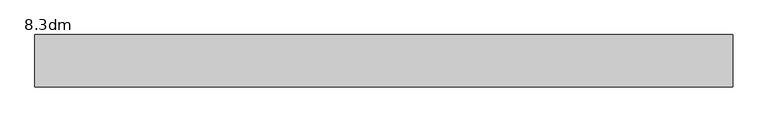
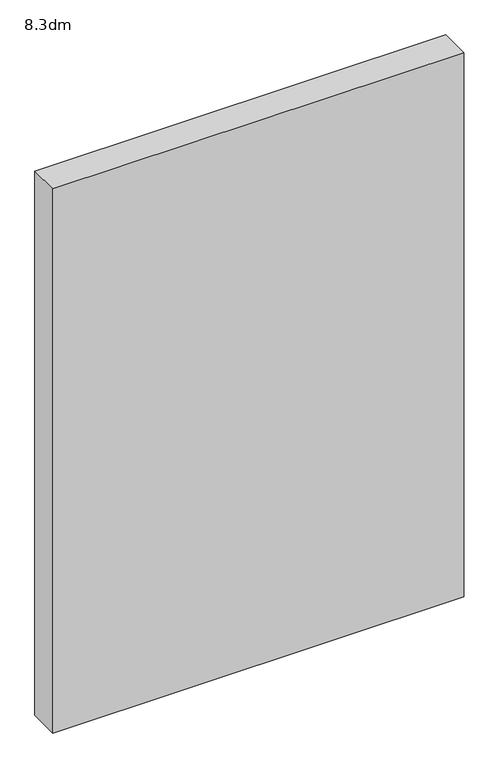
"""IFC4 building model written with IfcOpenShell, lengths in millimetres: proxy geometry, 8.3dm."""

import ifcopenshell
import ifcopenshell.guid

model = None  # the IFC model being written
_history = None  # IfcOwnerHistory: only IFC2X3 demands one
_inside = {}  # id of a spatial element -> (the spatial element, [elements in it])
_under = {}  # id of a project, library or spatial element -> (it, [spatial elements below it])
_declared = {}  # id of a project -> (the project, [libraries it declares])
_typed = {}  # id of a type object -> (the type object, [elements of that type])
_made_of = {}  # id of a material, layer set ... -> (it, [elements and type objects made of it])


def new_model(schema):
    """Start an empty IFC model of exactly this schema.

    Asked for "IFC4X3", IfcOpenShell would pick the latest addendum, in which some entities
    have other attributes; the version numbers below select the first issue.
    IFC2X3 requires an IfcOwnerHistory on every rooted entity: one is made here for all.
    """
    global model, _history
    if schema == "IFC4X3":
        model = ifcopenshell.file(schema_version=(4, 3, 0, 0))
    else:
        model = ifcopenshell.file(schema=schema)
    _inside.clear()
    _under.clear()
    _declared.clear()
    _typed.clear()
    _made_of.clear()
    _history = None
    if model.schema == "IFC2X3":
        org = make("IfcOrganization", Name="unknown")
        user = make(
            "IfcPersonAndOrganization",
            ThePerson=make("IfcPerson", FamilyName="unknown"),
            TheOrganization=org,
        )
        app = make(
            "IfcApplication",
            ApplicationDeveloper=org,
            Version="unknown",
            ApplicationFullName="unknown",
            ApplicationIdentifier="unknown",
        )
        _history = make(
            "IfcOwnerHistory",
            OwningUser=user,
            OwningApplication=app,
            ChangeAction="ADDED",
            CreationDate=0,
        )
    return model


def make(cls, **values):
    """One entity of the class cls with the attributes given. An attribute that is None is left unset."""
    return model.create_entity(
        cls, **{name: value for name, value in values.items() if value is not None}
    )


def rooted(cls, **values):
    """An entity with a GlobalId (a new one), such as an element, a storey or a relation."""
    return make(cls, GlobalId=ifcopenshell.guid.new(), OwnerHistory=_history, **values)


def si_unit(unit_type, name, prefix=None):
    """IfcSIUnit, for example si_unit("LENGTHUNIT", "METRE", prefix="MILLI")."""
    return make("IfcSIUnit", UnitType=unit_type, Prefix=prefix, Name=name)


def assignment(units):
    """IfcUnitAssignment: the units of a project."""
    return None if units is None else make("IfcUnitAssignment", Units=units)


def point(xyz):
    """IfcCartesianPoint."""
    return None if xyz is None else make("IfcCartesianPoint", Coordinates=xyz)


def direction(xyz):
    """IfcDirection."""
    return None if xyz is None else make("IfcDirection", DirectionRatios=xyz)


def frame(location, z_axis=None, x_axis=None):
    """IfcAxis2Placement3D, a coordinate frame: its origin and axes. An axis left out is left unset."""
    return make(
        "IfcAxis2Placement3D",
        Location=point(location),
        Axis=direction(z_axis),
        RefDirection=direction(x_axis),
    )


def origin():
    """The frame at (0, 0, 0) with its axes left unset."""
    return frame((0.0, 0.0, 0.0))


def origin_with_axes():
    """The frame at (0, 0, 0) with the z axis (0, 0, 1) and the x axis (1, 0, 0) written out."""
    return frame((0.0, 0.0, 0.0), z_axis=(0.0, 0.0, 1.0), x_axis=(1.0, 0.0, 0.0))


def place(relative_to, where):
    """IfcLocalPlacement: puts the frame where relative to a parent placement (None: the world)."""
    return make(
        "IfcLocalPlacement", PlacementRelTo=relative_to, RelativePlacement=where
    )


def context(
    kind, dimensions, precision=None, world=None, true_north=None, identifier=None
):
    """IfcGeometricRepresentationContext, for example the 3D "Model" context."""
    return make(
        "IfcGeometricRepresentationContext",
        ContextIdentifier=identifier,
        ContextType=kind,
        CoordinateSpaceDimension=dimensions,
        Precision=precision,
        WorldCoordinateSystem=world,
        TrueNorth=true_north,
    )


def project(units=None, contexts=None):
    """IfcProject with its units and contexts."""
    return rooted(
        "IfcProject",
        Name="project",
        RepresentationContexts=contexts,
        UnitsInContext=assignment(units),
    )


def spatial(cls, under=None, at=None, **own):
    """A site, building, storey or space (cls), placed at a placement, below another one or the project."""
    s = rooted(cls, ObjectPlacement=at, **own)
    if under is not None:
        _under.setdefault(under.id(), (under, []))[1].append(s)
    return s


def polyline(points):
    """IfcPolyline through the points."""
    return make("IfcPolyline", Points=[point(p) for p in points])


def outline(outer, holes=None, kind="AREA"):
    """IfcArbitraryClosedProfileDef: a profile drawn as a closed curve; with holes, ...WithVoids."""
    if holes is None:
        return make("IfcArbitraryClosedProfileDef", ProfileType=kind, OuterCurve=outer)
    return make(
        "IfcArbitraryProfileDefWithVoids",
        ProfileType=kind,
        OuterCurve=outer,
        InnerCurves=holes,
    )


def extrude(swept, where, along, depth):
    """IfcExtrudedAreaSolid: the profile swept, set in the frame where, extruded along a direction by depth."""
    return make(
        "IfcExtrudedAreaSolid",
        SweptArea=swept,
        Position=where,
        ExtrudedDirection=direction(along),
        Depth=depth,
    )


def shape(context_of_items, identifier, shape_type, items):
    """IfcShapeRepresentation: the items that make up one representation, for example the "Body"."""
    return make(
        "IfcShapeRepresentation",
        ContextOfItems=context_of_items,
        RepresentationIdentifier=identifier,
        RepresentationType=shape_type,
        Items=items,
    )


def source(mapping_origin, context_of_items, identifier, shape_type, items):
    """IfcRepresentationMap: a shape defined once, which mapped items show again and again."""
    return make(
        "IfcRepresentationMap",
        MappingOrigin=mapping_origin,
        MappedRepresentation=shape(context_of_items, identifier, shape_type, items),
    )


def transform(
    local_origin,
    x_axis=None,
    y_axis=None,
    z_axis=None,
    scale=None,
    scale2=None,
    scale3=None,
    uniform=True,
):
    """IfcCartesianTransformationOperator3D, or its non-uniform kind. x_axis, y_axis, z_axis: its Axis1, 2, 3."""
    if uniform:
        return make(
            "IfcCartesianTransformationOperator3D",
            Axis1=direction(x_axis),
            Axis2=direction(y_axis),
            LocalOrigin=point(local_origin),
            Scale=scale,
            Axis3=direction(z_axis),
        )
    return make(
        "IfcCartesianTransformationOperator3DnonUniform",
        Axis1=direction(x_axis),
        Axis2=direction(y_axis),
        LocalOrigin=point(local_origin),
        Scale=scale,
        Axis3=direction(z_axis),
        Scale2=scale2,
        Scale3=scale3,
    )


def mapped(mapping_source, mapping_target):
    """IfcMappedItem: shows the shape of a source again, moved by a transform."""
    return make(
        "IfcMappedItem", MappingSource=mapping_source, MappingTarget=mapping_target
    )


def made_of(thing, what):
    """Note that an element or type object is made of a material, layer set ...; save() writes the relation."""
    if what is not None:
        _made_of.setdefault(what.id(), (what, []))[1].append(thing)
    return thing


def element(
    cls,
    number,
    at=None,
    inside=None,
    cuts=None,
    type_object=None,
    material=None,
    context=None,
    identifier="Body",
    shape_type=None,
    held_by="IfcProductDefinitionShape",
    body=None,
    shapes=None,
    **own,
):
    """One element of the class cls, such as IfcWall. Its Tag is "e" and its number.

    at: its placement. inside: the storey or other place that contains it. cuts: it is an
    opening in that element (IfcRelVoidsElement). A single representation is given by context,
    identifier, shape_type and body (its items); several are given by shapes. held_by: the class
    of the entity that holds the representations. save() writes the other relations.
    """
    e = rooted(cls, Tag="e%d" % number, ObjectPlacement=at, **own)
    if body is not None:
        shapes = [shape(context, identifier, shape_type, body)]
    if shapes is not None:
        e.Representation = make(held_by, Representations=shapes)
    if inside is not None:
        _inside.setdefault(inside.id(), (inside, []))[1].append(e)
    if cuts is not None:
        rooted(
            "IfcRelVoidsElement", RelatingBuildingElement=cuts, RelatedOpeningElement=e
        )
    if type_object is not None:
        _typed.setdefault(type_object.id(), (type_object, []))[1].append(e)
    return made_of(e, material)


def aggregate(whole, parts):
    """IfcRelAggregates: a whole, such as a stair, and the parts it consists of."""
    return rooted("IfcRelAggregates", RelatingObject=whole, RelatedObjects=parts)


def save(model, path):
    """Write the relations noted so far, then the file.

    IfcRelAggregates (storeys below a building ...), IfcRelContainedInSpatialStructure (elements
    in a storey), IfcRelDefinesByType, IfcRelAssociatesMaterial and IfcRelDeclares: one each for
    every whole, place, type object, material and project.
    """
    for whole, parts in _under.values():
        aggregate(whole, parts)
    for where, things in _inside.values():
        rooted(
            "IfcRelContainedInSpatialStructure",
            RelatedElements=things,
            RelatingStructure=where,
        )
    for kind, things in _typed.values():
        rooted("IfcRelDefinesByType", RelatedObjects=things, RelatingType=kind)
    for what, things in _made_of.values():
        rooted("IfcRelAssociatesMaterial", RelatedObjects=things, RelatingMaterial=what)
    for by, libraries in _declared.values():
        rooted("IfcRelDeclares", RelatingContext=by, RelatedDefinitions=libraries)
    model.write(path)


def proxy_8_3dm_0daf05c3(model_context):
    return source(origin(), model_context, "Body", "SweptSolid", [
        extrude(outline(polyline([(0.0, 12.0), (0.0, 162.0), (2000.0, 162.0), (2000.0, 12.0), (0.0, 12.0)])), origin_with_axes(), (0.0, 0.0, 1.0), 2800.0),
    ])


if __name__ == "__main__":
    model = new_model("IFC4")
    model_context = context("Model", 3, world=origin())
    ifc_project = project(units=[si_unit("LENGTHUNIT", "METRE", prefix="MILLI")], contexts=[model_context])
    site = spatial("IfcSite", under=ifc_project)
    building = spatial("IfcBuilding", under=site)
    placement = place(None, origin())
    proxy_8_3dm_shape = proxy_8_3dm_0daf05c3(model_context)
    element("IfcBuildingElementProxy", 1, Name="8.3dm", ObjectType="8.3dm", at=placement, inside=building, context=model_context, shape_type="MappedRepresentation", body=[
        mapped(proxy_8_3dm_shape, transform((0.0, 0.0, 0.0), x_axis=(1.0, 0.0, 0.0), y_axis=(0.0, 1.0, 0.0), z_axis=(0.0, 0.0, 1.0))),
    ])
    save(model, "model.ifc")
